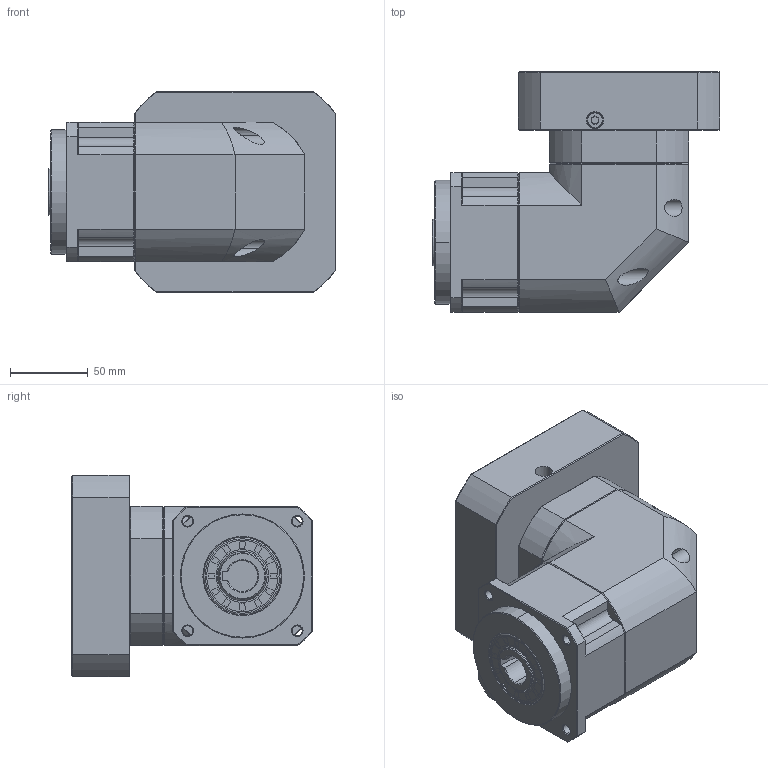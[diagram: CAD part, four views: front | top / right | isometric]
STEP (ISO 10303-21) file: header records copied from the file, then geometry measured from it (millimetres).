
FILE_DESCRIPTION (( 'STEP AP214' ), '1' );
FILE_NAME ('ZPBR090-K20-L1-P1-24-110-145-M8.step', '2024-06-07T18:39:46', ( 'Windows 蚚誧' ), ( 'Organization' ), 'SwSTEP 2.0', 'SolidWorks 2016', '' );
FILE_SCHEMA (( 'AUTOMOTIVE_DESIGN' ));
Length unit declared in the file: millimetre
Products named in the file (1): ZPBR090-K20-L1-P1-24-110-145-M8
Bounding box: 185.5 x 155 x 130 mm (x, y, z)
Surface area: 150568.2 mm2 (no closed solid volume)
Topology: 0 solids, 32 shells, 1795 faces, 4781 edges, 3074 vertices
Faces by surface type: plane 966, bspline 368, cone 234, cylinder 212, torus 15
Entity records: 83652 total; most frequent: CARTESIAN_POINT 38084, ORIENTED_EDGE 9542, DIRECTION 7409, EDGE_CURVE 4781, LINE 3207, VECTOR 3207, VERTEX_POINT 3074, AXIS2_PLACEMENT_3D 2101
